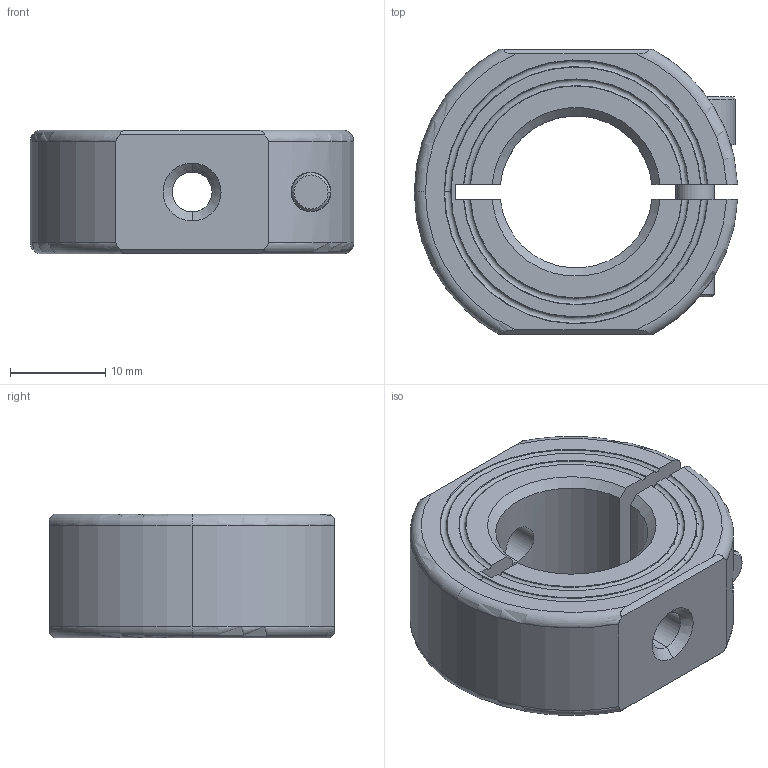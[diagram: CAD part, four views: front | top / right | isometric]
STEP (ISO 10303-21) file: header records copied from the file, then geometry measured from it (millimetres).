
FILE_DESCRIPTION (( 'STEP AP214' ), '1' );
FILE_NAME ('Ruland_OF-MCL-16-F.step', '2018-02-08T04:07:37', ( '' ), ( '' ), 'SwSTEP 2.0', 'SolidWorks 2018', '' );
FILE_SCHEMA (( 'AUTOMOTIVE_DESIGN' ));
Length unit declared in the file: millimetre
Products named in the file (3): OX-MCL-XX-XX-C_OF-MCL-16-F-C.step; Ruland_OF-MCL-16-F; Metric Socket Head Cap Screws 1_CFM5_16.step
Assembly tree (2 placements, depth 2):
  Ruland_OF-MCL-16-F
    OX-MCL-XX-XX-C_OF-MCL-16-F-C.step
    Metric Socket Head Cap Screws 1_CFM5_16.step
Bounding box: 33.98 x 30 x 13 mm (x, y, z)
Volume: 7853.1 mm3; surface area: 4367.2 mm2
Topology: 2 solids, 2 shells, 79 faces, 208 edges, 135 vertices
Faces by surface type: plane 27, cylinder 21, cone 19, torus 12
Entity records: 3392 total; most frequent: CARTESIAN_POINT 1293, ORIENTED_EDGE 416, DIRECTION 392, EDGE_CURVE 208, AXIS2_PLACEMENT_3D 156, VERTEX_POINT 135, EDGE_LOOP 89, VECTOR 80
